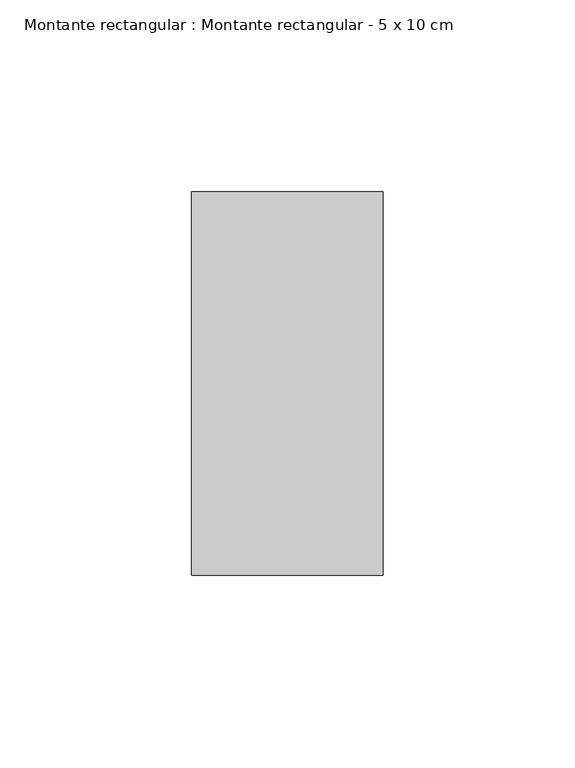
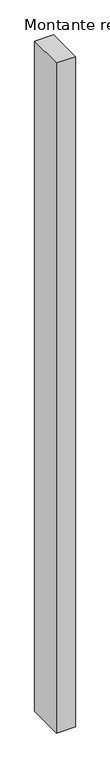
"""IFC4 building model written with IfcOpenShell, lengths in millimetres: member geometry, Montante rectangular : Montante rectangular - 5 x 10 cm."""

from ifc_helpers import new_model, si_unit, frame, origin, place, context, project, spatial, polyline, outline, extrude, source, transform, mapped, element, save


def montante_rectangular_montante_rectangular_5_x_10_cm_87aab7b8(model_context):
    return source(origin(), model_context, "Body", "SweptSolid", [
        extrude(outline(polyline([(25.0, 50.0), (25.0, -50.0), (-25.0, -50.0), (-25.0, 50.0), (25.0, 50.0)])), frame((0.0, 0.0, -1880.0), z_axis=(0.0, 0.0, 1.0), x_axis=(1.0, 0.0, 0.0)), (0.0, 0.0, 1.0), 1880.0),
    ])


if __name__ == "__main__":
    model = new_model("IFC4")
    model_context = context("Model", 3, world=origin())
    ifc_project = project(units=[si_unit("LENGTHUNIT", "METRE", prefix="MILLI")], contexts=[model_context])
    site = spatial("IfcSite", under=ifc_project)
    building = spatial("IfcBuilding", under=site)
    placement = place(None, origin())
    montante_rectangular_montante_rectangular_5_x_10_cm_shape = montante_rectangular_montante_rectangular_5_x_10_cm_87aab7b8(model_context)
    element("IfcMember", 1, ObjectType="Montante rectangular : Montante rectangular - 5 x 10 cm", at=placement, inside=building, context=model_context, shape_type="MappedRepresentation", body=[
        mapped(montante_rectangular_montante_rectangular_5_x_10_cm_shape, transform((0.0, 0.0, 0.0), x_axis=(1.0, 0.0, 0.0), y_axis=(0.0, 1.0, 0.0), z_axis=(0.0, 0.0, 1.0))),
    ])
    save(model, "model.ifc")
